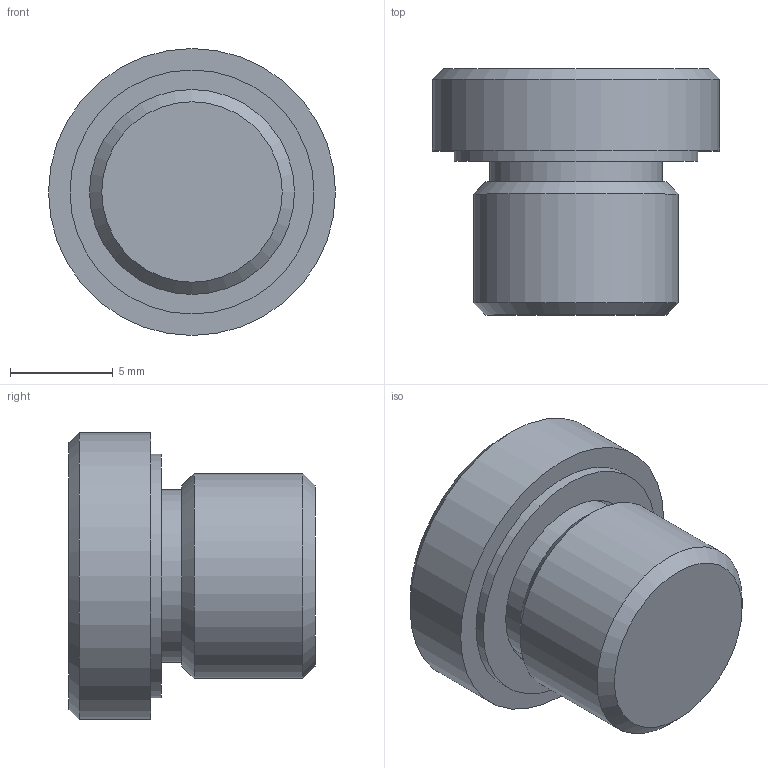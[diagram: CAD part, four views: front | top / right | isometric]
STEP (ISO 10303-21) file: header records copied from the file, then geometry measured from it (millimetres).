
FILE_DESCRIPTION( ( 'STEP AP203' ), '1' );
FILE_NAME( 'C:/Temp/Ganter_Step_05_03_2020/data/3_5/gn749/gn749_b/Threaded plug GN 749-M10x1-B.stp', '2020-03-12T13:41:38', ( 'License CC BY-ND 4.0' ), ( 'CADENAS' ), ' ', 'PARTsolutions', ' ' );
FILE_SCHEMA( ( 'CONFIG_CONTROL_DESIGN' ) );
Length unit declared in the file: millimetre
Products named in the file (1): _Threaded plug GN 749-M10x1-B
Bounding box: 14 x 12 x 14 mm (x, y, z)
Volume: 1131.8 mm3; surface area: 839.4 mm2
Topology: 1 solids, 1 shells, 21 faces, 41 edges, 27 vertices
Faces by surface type: plane 13, cylinder 5, cone 3
Full cylindrical faces by diameter (mm): 8.4 x1, 8.8 x1, 10 x1, 11.9 x1, 14 x1
Entity records: 526 total; most frequent: DIRECTION 88, CARTESIAN_POINT 78, ORIENTED_EDGE 62, AXIS2_PLACEMENT_3D 35, EDGE_LOOP 34, EDGE_CURVE 31, FACE_OUTER_BOUND 26, VERTEX_POINT 25
